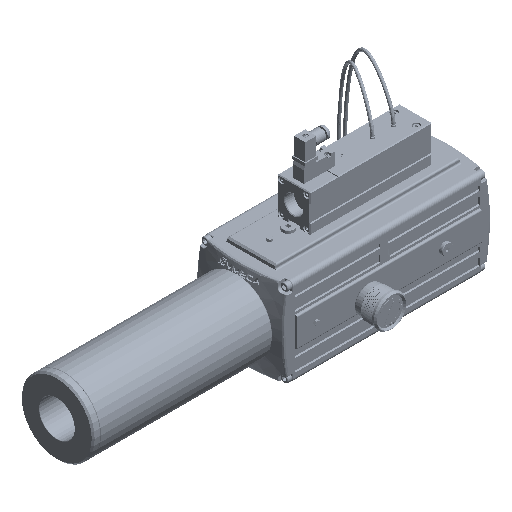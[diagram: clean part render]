
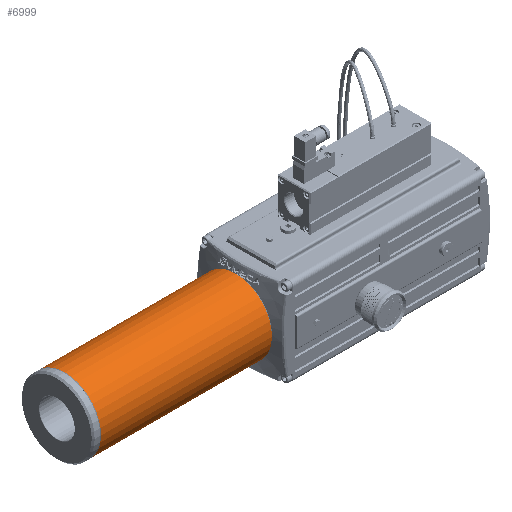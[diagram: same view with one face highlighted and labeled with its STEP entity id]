
A CAD part, isometric view. The second image highlights one B-rep face of the part: STEP entity #6999.
In plain terms, the highlighted cylindrical face has radius 49 mm (diameter 98 mm), a full revolution.
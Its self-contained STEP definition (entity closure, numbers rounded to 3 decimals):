
#6999 = ADVANCED_FACE( '', ( #15374, #15375 ), #15376, .T. );
#15374 = FACE_OUTER_BOUND( '', #27151, .T. );
#15375 = FACE_OUTER_BOUND( '', #27152, .T. );
#15376 = CYLINDRICAL_SURFACE( '', #27153, 49. );
#27151 = EDGE_LOOP( '', ( #49124 ) );
#27152 = EDGE_LOOP( '', ( #49125 ) );
#27153 = AXIS2_PLACEMENT_3D( '', #49126, #49127, #49128 );
#49124 = ORIENTED_EDGE( '', *, *, #65783, .F. );
#49125 = ORIENTED_EDGE( '', *, *, #65784, .T. );
#49126 = CARTESIAN_POINT( '', ( -126., 0., 0. ) );
#49127 = DIRECTION( '', ( -1., 0., 0. ) );
#49128 = DIRECTION( '', ( 0., 0., 1. ) );
#65783 = EDGE_CURVE( '', #79670, #79670, #79671, .T. );
#65784 = EDGE_CURVE( '', #79672, #79672, #79673, .T. );
#79670 = VERTEX_POINT( '', #107336 );
#79671 = CIRCLE( '', #107337, 49. );
#79672 = VERTEX_POINT( '', #107338 );
#79673 = CIRCLE( '', #107339, 49. );
#107336 = CARTESIAN_POINT( '', ( -125.5, 0., 49. ) );
#107337 = AXIS2_PLACEMENT_3D( '', #120595, #120596, #120597 );
#107338 = CARTESIAN_POINT( '', ( 105., 0., 49. ) );
#107339 = AXIS2_PLACEMENT_3D( '', #120598, #120599, #120600 );
#120595 = CARTESIAN_POINT( '', ( -125.5, 0., 0. ) );
#120596 = DIRECTION( '', ( -1., 0., 0. ) );
#120597 = DIRECTION( '', ( 0., 0., 1. ) );
#120598 = CARTESIAN_POINT( '', ( 105., 0., 0. ) );
#120599 = DIRECTION( '', ( -1., 0., 0. ) );
#120600 = DIRECTION( '', ( 0., 0., 1. ) );
